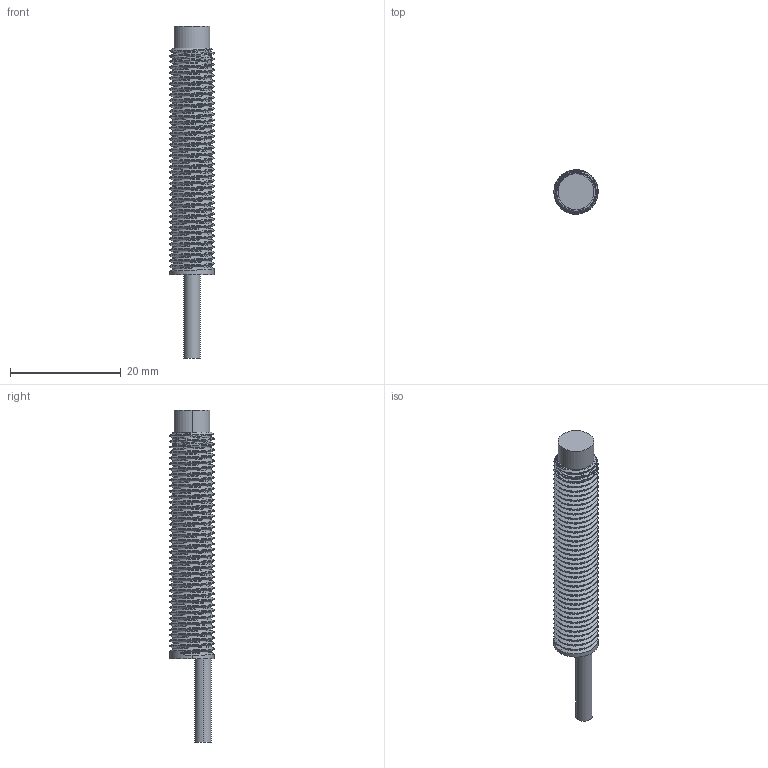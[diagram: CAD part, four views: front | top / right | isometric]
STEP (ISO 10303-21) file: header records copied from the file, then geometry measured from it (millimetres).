
FILE_DESCRIPTION (( 'STEP AP214' ), '1' );
FILE_NAME ('1.BIS3D16.STEP', '2024-11-06T01:36:55', ( '' ), ( '' ), 'SwSTEP 2.0', 'SolidWorks 2022', '' );
FILE_SCHEMA (( 'AUTOMOTIVE_DESIGN' ));
Length unit declared in the file: millimetre
Products named in the file (1): 1.BIS3D16
Bounding box: 8 x 8 x 60 mm (x, y, z)
Volume: 1995 mm3; surface area: 1849.7 mm2
Topology: 1 solids, 1 shells, 99 faces, 278 edges, 183 vertices
Faces by surface type: cylinder 84, plane 9, cone 3, bspline 3
Entity records: 9151 total; most frequent: CARTESIAN_POINT 7029, ORIENTED_EDGE 556, DIRECTION 316, EDGE_CURVE 278, VERTEX_POINT 183, AXIS2_PLACEMENT_3D 110, EDGE_LOOP 101, FACE_OUTER_BOUND 99
